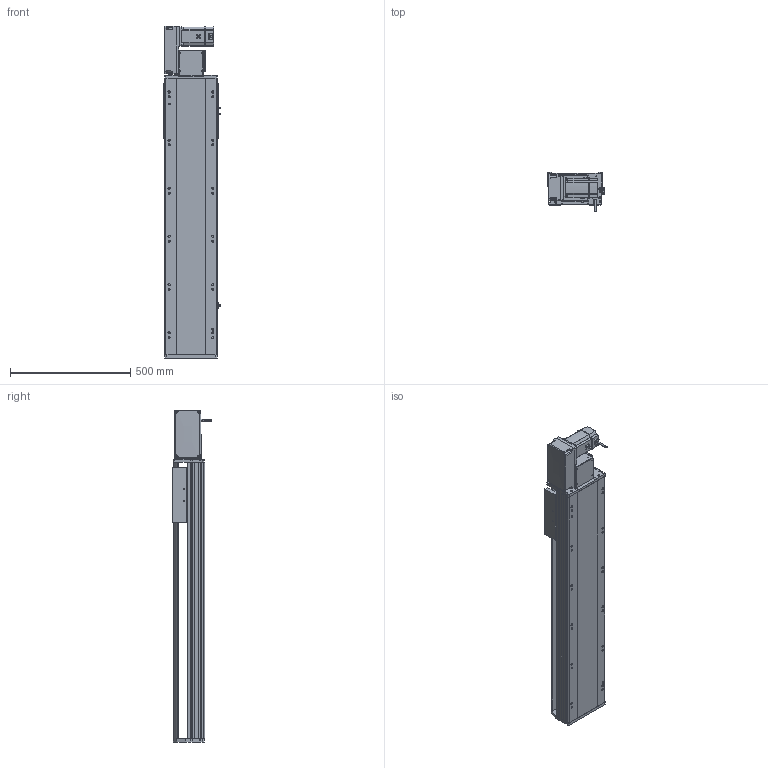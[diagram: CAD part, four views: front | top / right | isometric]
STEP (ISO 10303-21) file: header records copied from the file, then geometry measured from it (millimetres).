
FILE_DESCRIPTION (( 'STEP AP214' ), '1' );
FILE_NAME ('RTB22S-XX-800-L-M75-C4.STEP', '2025-12-12T03:15:46', ( '' ), ( '' ), 'SwSTEP 2.0', 'SolidWorks 2018', '' );
FILE_SCHEMA (( 'AUTOMOTIVE_DESIGN' ));
Length unit declared in the file: millimetre
Products named in the file (14): 750W萇儂^RTB22S-XX-XX-L-M75-C4; RTB22S-GY-005P^RTB22S-L-々湍釱蚾饜_RTB22S-XX-XX-L-M75-C4; RTB22S-GY-017P^RTB22S-L-々湍釱蚾饜_RTB22S-XX-XX-L-M75-C4; RTH22-GY-013外置感应片^RTB22S-XX-XX-L-M75-C4; RTB22S-GY-007奻裔^RTB22S-XX-XX-L-M75-C4; RTB22S-GY-018P^RTB22S-L-々湍釱蚾饜_RTB22S-XX-XX-L-M75-C4; RTB22S-GY-008-M75--萇儂啣^RTB22S-L-々湍釱蚾饜_RTB22S-XX-XX-L-M75-C4; RTB22S-XX-800-L-M75-C4; RTB22S-L-011菁釱^RTB22S-XX-XX-L-M75-C4; RTB22S-GY-014--々湍釱^RTB22S-L-々湍釱蚾饜_RTB22S-XX-XX-L-M75-C4; OMRON EE-SX672 传感器^RTB22S-XX-XX-L-M75-C4; RTB22S-L-004賑釱^RTB22S-XX-XX-L-M75-C4; RTB22S-GY-001耜裔^RTB22S-XX-XX-L-M75-C4; RTB22S-L-々湍釱蚾饜^RTB22S-XX-XX-L-M75-C4
Assembly tree (16 placements, depth 3):
  RTB22S-XX-800-L-M75-C4
    RTB22S-L-011菁釱^RTB22S-XX-XX-L-M75-C4
    750W萇儂^RTB22S-XX-XX-L-M75-C4
    RTB22S-L-004賑釱^RTB22S-XX-XX-L-M75-C4
    OMRON EE-SX672 传感器^RTB22S-XX-XX-L-M75-C4  x3
    RTH22-GY-013外置感应片^RTB22S-XX-XX-L-M75-C4
    RTB22S-GY-007奻裔^RTB22S-XX-XX-L-M75-C4
    RTB22S-GY-001耜裔^RTB22S-XX-XX-L-M75-C4
    RTB22S-L-々湍釱蚾饜^RTB22S-XX-XX-L-M75-C4
      RTB22S-GY-014--々湍釱^RTB22S-L-々湍釱蚾饜_RTB22S-XX-XX-L-M75-C4
      RTB22S-GY-017P^RTB22S-L-々湍釱蚾饜_RTB22S-XX-XX-L-M75-C4  x2
      RTB22S-GY-005P^RTB22S-L-々湍釱蚾饜_RTB22S-XX-XX-L-M75-C4
      RTB22S-GY-008-M75--萇儂啣^RTB22S-L-々湍釱蚾饜_RTB22S-XX-XX-L-M75-C4
      RTB22S-GY-018P^RTB22S-L-々湍釱蚾饜_RTB22S-XX-XX-L-M75-C4
Bounding box: 238.5 x 162.7 x 1379 mm (x, y, z)
Volume: 18963144.8 mm3; surface area: 1982099 mm2
Topology: 15 solids, 15 shells, 1947 faces, 5286 edges, 3392 vertices
Faces by surface type: plane 911, cylinder 598, bspline 296, cone 130, sphere 8, torus 4
Entity records: 51452 total; most frequent: CARTESIAN_POINT 14876, ORIENTED_EDGE 7376, DIRECTION 7062, EDGE_CURVE 3688, AXIS2_PLACEMENT_3D 2478, VERTEX_POINT 2396, VECTOR 2106, LINE 2106
